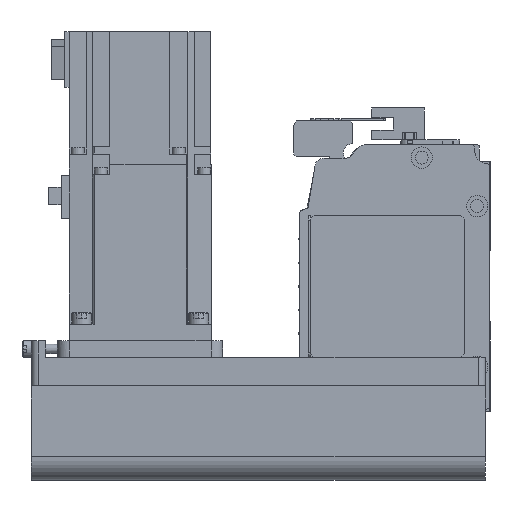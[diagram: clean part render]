
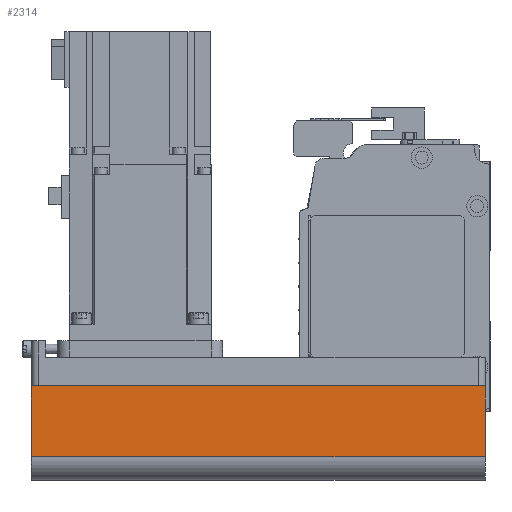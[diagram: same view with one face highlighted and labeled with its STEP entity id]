
A CAD part, left-side view. The second image highlights one B-rep face of the part: STEP entity #2314.
In plain terms, the highlighted planar face has unit normal (-1, 0, 0) as drawn and (0, -1, 0) by its records, which use the part's own axes.
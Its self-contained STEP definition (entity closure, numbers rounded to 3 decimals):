
#2314 = ADVANCED_FACE( '', ( #4767 ), #4768, .T. );
#4767 = FACE_OUTER_BOUND( '', #7207, .T. );
#4768 = PLANE( '', #7208 );
#7207 = EDGE_LOOP( '', ( #13495, #13496, #13497, #13498 ) );
#7208 = AXIS2_PLACEMENT_3D( '', #13499, #13500, #13501 );
#13495 = ORIENTED_EDGE( '', *, *, #16036, .F. );
#13496 = ORIENTED_EDGE( '', *, *, #14888, .F. );
#13497 = ORIENTED_EDGE( '', *, *, #14459, .T. );
#13498 = ORIENTED_EDGE( '', *, *, #13770, .T. );
#13499 = CARTESIAN_POINT( '', ( -192., -40., -12.1 ) );
#13500 = DIRECTION( '', ( 0., -1., 0. ) );
#13501 = DIRECTION( '', ( 0., 0., -1. ) );
#13770 = EDGE_CURVE( '', #16271, #16268, #16272, .T. );
#14459 = EDGE_CURVE( '', #17465, #16271, #17472, .T. );
#14888 = EDGE_CURVE( '', #17465, #18158, #18159, .T. );
#16036 = EDGE_CURVE( '', #18158, #16268, #19722, .T. );
#16268 = VERTEX_POINT( '', #19972 );
#16271 = VERTEX_POINT( '', #19975 );
#16272 = LINE( '', #19976, #19977 );
#17465 = VERTEX_POINT( '', #21556 );
#17472 = LINE( '', #21566, #21567 );
#18158 = VERTEX_POINT( '', #22475 );
#18159 = LINE( '', #22476, #22477 );
#19722 = LINE( '', #24604, #24605 );
#19972 = CARTESIAN_POINT( '', ( 0., -40., -42. ) );
#19975 = CARTESIAN_POINT( '', ( -192., -40., -42. ) );
#19976 = CARTESIAN_POINT( '', ( -192., -40., -42. ) );
#19977 = VECTOR( '', #24906, 1000. );
#21556 = CARTESIAN_POINT( '', ( -192., -40., -12.1 ) );
#21566 = CARTESIAN_POINT( '', ( -192., -40., -12.1 ) );
#21567 = VECTOR( '', #25797, 1000. );
#22475 = CARTESIAN_POINT( '', ( 0., -40., -12.1 ) );
#22476 = CARTESIAN_POINT( '', ( -192., -40., -12.1 ) );
#22477 = VECTOR( '', #26359, 1000. );
#24604 = CARTESIAN_POINT( '', ( 0., -40., -12.1 ) );
#24605 = VECTOR( '', #27626, 1000. );
#24906 = DIRECTION( '', ( 1., 0., 0. ) );
#25797 = DIRECTION( '', ( 0., 0., -1. ) );
#26359 = DIRECTION( '', ( 1., 0., 0. ) );
#27626 = DIRECTION( '', ( 0., 0., -1. ) );
